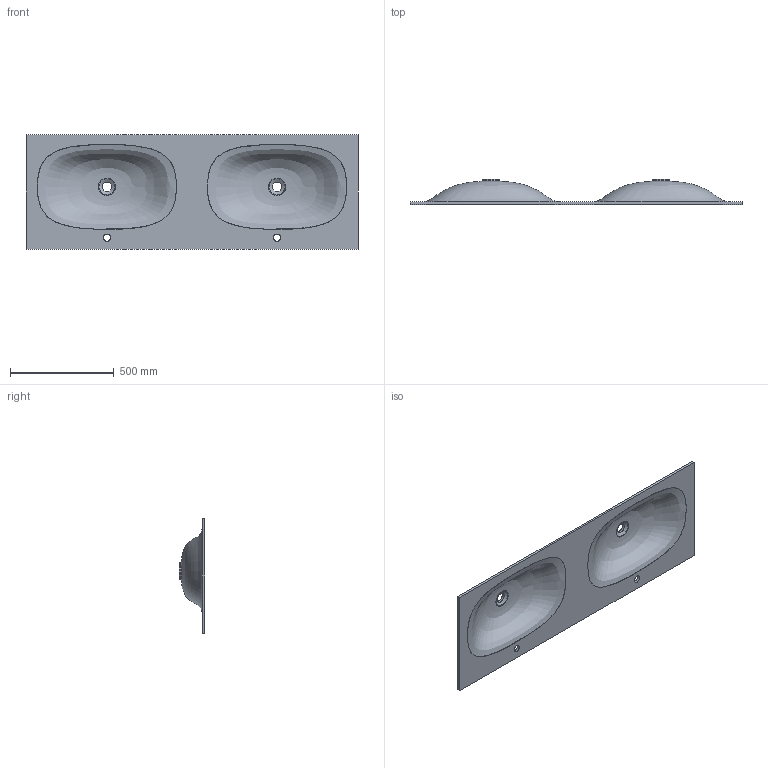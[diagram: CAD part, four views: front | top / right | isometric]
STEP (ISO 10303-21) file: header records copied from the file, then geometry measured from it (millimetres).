
FILE_DESCRIPTION (( 'STEP AP214' ), '1' );
FILE_NAME ('TRINITY D 1600.STEP', '2024-05-10T08:47:13', ( '' ), ( '' ), 'SwSTEP 2.0', 'SolidWorks 2021', '' );
FILE_SCHEMA (( 'AUTOMOTIVE_DESIGN' ));
Products named in the file (1): TRINITY D 1600
Bounding box: 1600 x 121.36 x 550 mm (x, y, z)
Volume: 10740984.4 mm3; surface area: 1740543.3 mm2
Topology: 3 solids, 3 shells, 28 faces, 66 edges, 42 vertices
Faces by surface type: bspline 10, plane 8, cylinder 6, cone 4
Full cylindrical faces by diameter (mm): 35 x2, 47.09 x2, 80 x2
Entity records: 71614 total; most frequent: CARTESIAN_POINT 71073, DIRECTION 78, ORIENTED_EDGE 76, EDGE_LOOP 58, FACE_OUTER_BOUND 44, EDGE_CURVE 38, VERTEX_POINT 34, AXIS2_PLACEMENT_3D 33
